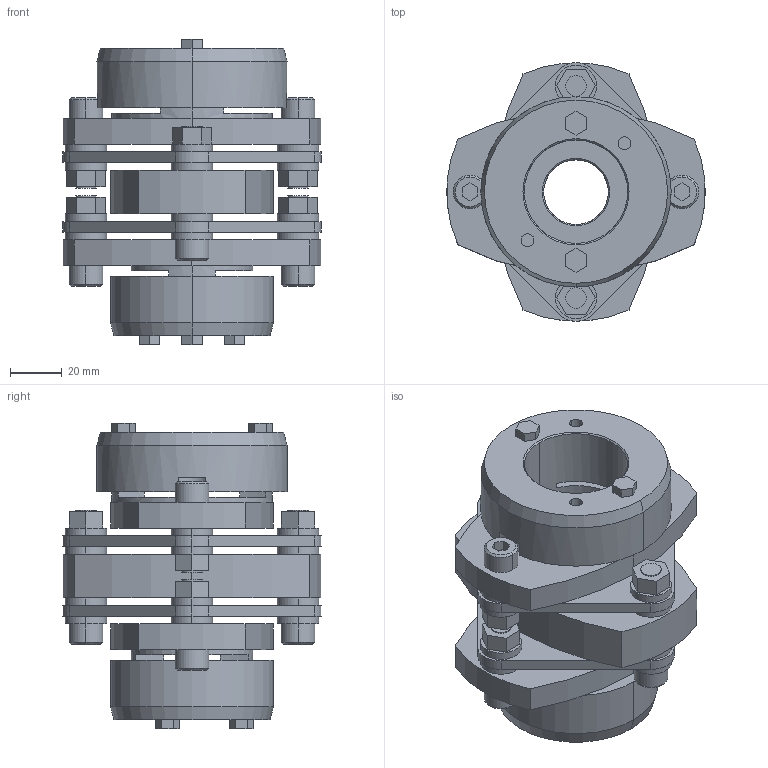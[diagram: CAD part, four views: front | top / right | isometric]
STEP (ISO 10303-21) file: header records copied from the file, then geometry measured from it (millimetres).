
FILE_DESCRIPTION((''),'2;1');
FILE_NAME('LCD-100T7-25×40.stp','2011-09-09T08:48:59',(''),(''),'AutoCAD STEP 2000i','AutoCAD 2000i',', , ');
FILE_SCHEMA(('CONFIG_CONTROL_DESIGN'));
Length unit declared in the file: millimetre
Products named in the file (10): LCD-100T7-25×38; 忣兜1; LC100T7-T038; LC100T7-T035; LC100T7-T030; LC100T7-T025-1; LC100T7-T025; LC100T7-T022-1; LC100T7-T022; LCD100-ITA
Assembly tree (9 placements, depth 2):
  LCD-100T7-25×38
    忣兜1
    LC100T7-T038
    LC100T7-T035
    LC100T7-T030
    LC100T7-T025-1
    LC100T7-T025
    LC100T7-T022-1
    LC100T7-T022
    LCD100-ITA
Bounding box: 100 x 99.93 x 118 mm (x, y, z)
Volume: 349156.5 mm3; surface area: 90426.7 mm2
Topology: 1 solids, 1 shells, 317 faces, 774 edges, 508 vertices
Faces by surface type: plane 171, cylinder 122, cone 24
Entity records: 9637 total; most frequent: DIRECTION 1716, CARTESIAN_POINT 1609, ORIENTED_EDGE 1548, EDGE_CURVE 774, AXIS2_PLACEMENT_3D 615, VERTEX_POINT 508, VECTOR 486, LINE 486
